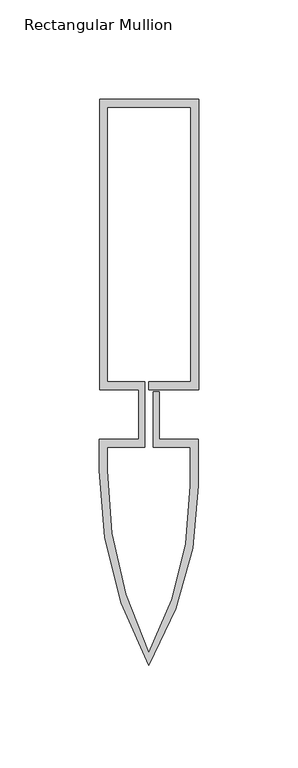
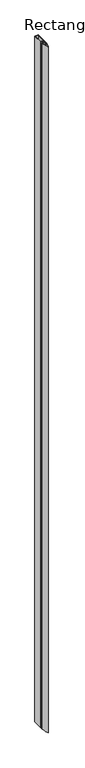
"""IFC4 building model written with IfcOpenShell, lengths in millimetres: member geometry, Rectangular Mullion : Reynaers_CW-50_Mullion-Transom_Vertical_146.5mm_Facecap-05."""

from ifc_helpers import new_model, si_unit, point, frame, frame_2d, origin, place, context, project, spatial, polyline, circle_curve, trimmed, segment, composite_curve, outline, extrude, source, transform, mapped, element, save


def rectangular_mullion_8eb1de87(model_context):
    return source(origin(), model_context, "Body", "SweptSolid", [
        extrude(outline(composite_curve([segment(polyline([(-24.8004059, 159.0), (25.1995941, 159.0), (25.1995941, 12.5), (0.0, 12.5), (0.0, 16.5), (21.1995941, 16.5), (21.1995941, 155.0), (-20.8004059, 155.0), (-20.8004059, 16.5), (-1.9004059, 16.5), (-1.9004059, -16.5), (-20.994845, -16.5), (-20.994845, -28.2355063)]), True, "CONTINUOUS"), segment(trimmed(circle_curve(frame_2d((191.2554764, -28.2355063)), 212.2503214), [point((-20.994845, -28.2355063))], [point((0.0, -120.2764846))], True, "CARTESIAN"), True, "CONTINUOUS"), segment(trimmed(circle_curve(frame_2d((-158.432152, -36.0547506)), 179.426997), [point((0.0, -120.2764846))], [point((20.994845, -36.0547506))], True, "CARTESIAN"), True, "CONTINUOUS"), segment(polyline([(20.994845, -36.0547506), (20.994845, -16.5), (2.2995941, -16.5), (2.2995941, 11.5), (5.2995941, 11.5), (5.2995941, -12.5), (24.994845, -12.5), (24.994845, -36.0195976)]), True, "CONTINUOUS"), segment(trimmed(circle_curve(frame_2d((-151.2704106, -36.0195976)), 176.2652556), [point((24.994845, -36.0195976))], [point((0.0, -126.5))], False, "CARTESIAN"), True, "CONTINUOUS"), segment(trimmed(circle_curve(frame_2d((181.1469577, -28.111878)), 206.1418028), [point((0.0, -126.5))], [point((-24.994845, -28.111878))], False, "CARTESIAN"), True, "CONTINUOUS"), segment(polyline([(-24.994845, -28.111878), (-24.994845, -12.5), (-4.9004059, -12.5), (-4.9004059, 12.5), (-24.8004059, 12.5), (-24.8004059, 159.0)]), True, "CONTINUOUS")], self_intersect=False)), frame((0.0, 0.0, -10400.0), z_axis=(0.0, 0.0, 1.0), x_axis=(1.0, 0.0, 0.0)), (0.0, 0.0, 1.0), 10400.0),
    ])


if __name__ == "__main__":
    model = new_model("IFC4")
    model_context = context("Model", 3, world=origin())
    ifc_project = project(units=[si_unit("LENGTHUNIT", "METRE", prefix="MILLI")], contexts=[model_context])
    site = spatial("IfcSite", under=ifc_project)
    building = spatial("IfcBuilding", under=site)
    placement = place(None, origin())
    rectangular_mullion_shape = rectangular_mullion_8eb1de87(model_context)
    element("IfcMember", 1, ObjectType="Rectangular Mullion : Reynaers_CW-50_Mullion-Transom_Vertical_146.5mm_Facecap-05", at=placement, inside=building, context=model_context, shape_type="MappedRepresentation", body=[
        mapped(rectangular_mullion_shape, transform((0.0, 0.0, 0.0), x_axis=(1.0, 0.0, 0.0), y_axis=(0.0, 1.0, 0.0), z_axis=(0.0, 0.0, 1.0))),
    ])
    save(model, "model.ifc")
